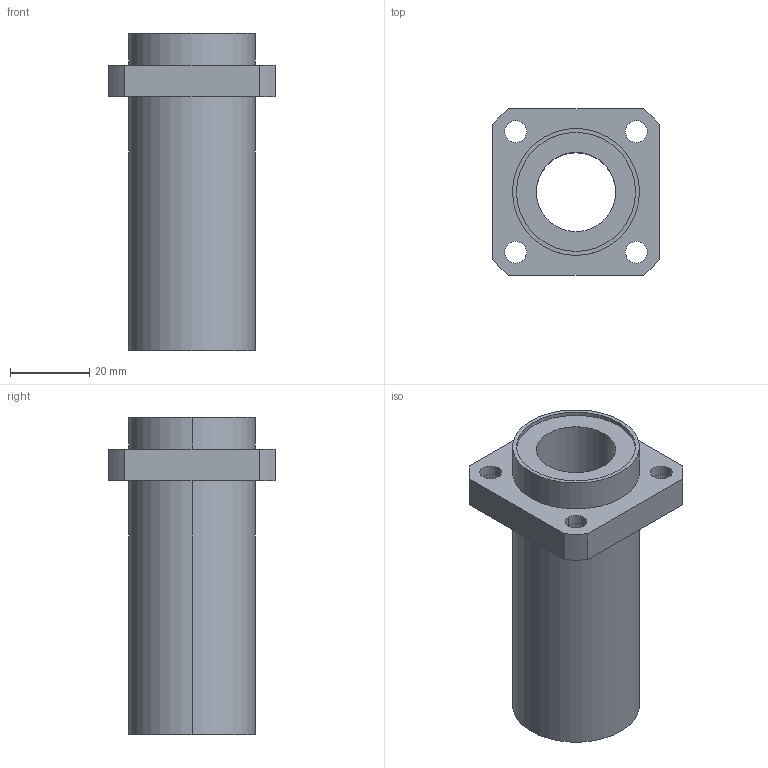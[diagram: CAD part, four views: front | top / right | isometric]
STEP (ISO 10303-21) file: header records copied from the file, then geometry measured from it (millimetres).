
FILE_DESCRIPTION((''),'2;1');
FILE_NAME('C:\Documents and Settings\ｿﾀﾀ蠑ｷ1\ｹﾙﾅﾁ ﾈｭｸ饅\ｺﾎﾇｰﾆﾄﾀﾏ\ﾁｦﾇｰ\LMKP__LUU\LMKP20LUU.stp','2005-06-15T11:13:42',('ｿﾀﾀ蠑ｷ1'),(''),'Autodesk Inventor 9','Autodesk Inventor 9','');
FILE_SCHEMA(('AUTOMOTIVE_DESIGN { 1 0 10303 214 1 1 1 1 }'));
Length unit declared in the file: millimetre
Products named in the file (1): LMKP__
Bounding box: 42 x 42 x 80 mm (x, y, z)
Volume: 44080.1 mm3; surface area: 17070 mm2
Topology: 1 solids, 1 shells, 44 faces, 102 edges, 68 vertices
Faces by surface type: cylinder 30, plane 14
Entity records: 1329 total; most frequent: DIRECTION 252, CARTESIAN_POINT 215, ORIENTED_EDGE 204, AXIS2_PLACEMENT_3D 105, EDGE_CURVE 102, VERTEX_POINT 68, EDGE_LOOP 62, CIRCLE 60
